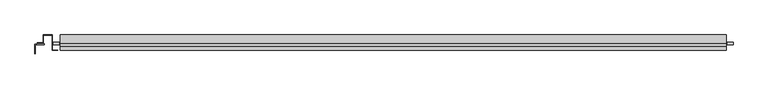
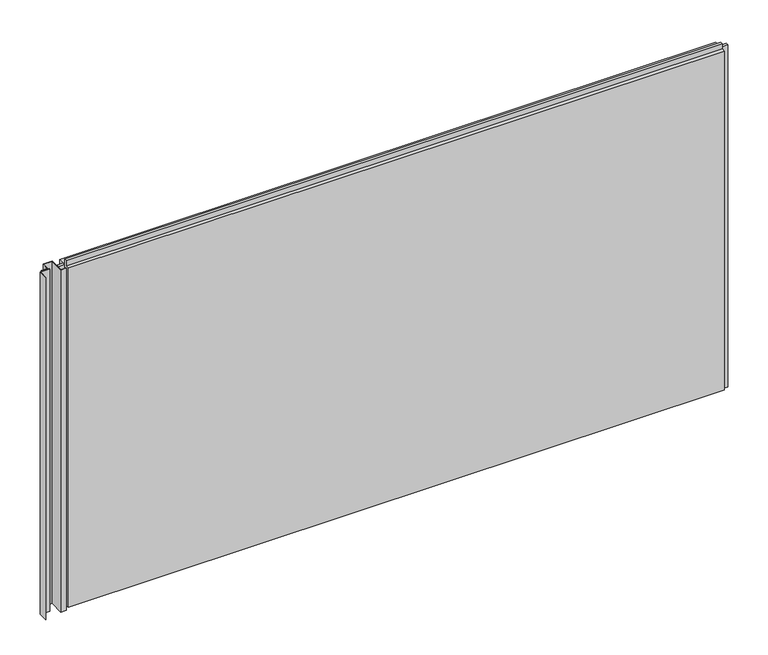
"""IFC4 building model written with IfcOpenShell, lengths in millimetres: plate geometry, Trimo_Qbiss Screen_Normal Panel-HORIZONTAL : HR - FB."""

from ifc_helpers import new_model, si_unit, frame, origin, place, context, project, spatial, polyline, outline, extrude, source, transform, mapped, element, save


def plate_1391ef68(model_context):
    return source(origin(), model_context, "Body", "SweptSolid", [
        extrude(outline(polyline([(-1059.5, 50.0), (-1059.5, 49.2), (-1077.8, 49.2), (-1077.8, 99.1967741), (-1106.2, 99.1967741), (-1106.2, 74.2), (-1126.2, 74.2), (-1126.2, 72.8), (-1112.0, 72.8), (-1112.0, 72.0), (-1127.0, 72.0), (-1127.0, 75.0), (-1107.0, 75.0), (-1107.0, 100.0), (-1077.0, 100.0), (-1077.0, 50.0), (-1059.5, 50.0)])), frame((0.0, 0.0, -1.0), z_axis=(0.0, 0.0, 1.0), x_axis=(1.0, 0.0, 0.0)), (0.0, 0.0, 1.0), 1200.0),
        extrude(outline(polyline([(-1103.0, 71.0), (-1103.0, 68.0), (-1133.2272593, 68.0), (-1133.2272593, 38.5929448), (-1134.0, 38.8), (-1134.0, 68.8), (-1103.8, 68.8), (-1103.8, 70.2), (-1127.0, 70.2), (-1127.0, 71.0), (-1103.0, 71.0)])), frame((0.0, 0.0, -1.0), z_axis=(0.0, 0.0, 1.0), x_axis=(1.0, 0.0, 0.0)), (0.0, 0.0, 1.0), 1200.0),
        extrude(outline(polyline([(-1055.0, 76.5978162), (-1055.0, 67.8978162), (-1074.0, 67.8978162), (-1074.0, 76.5978162), (-1055.0, 76.5978162)])), frame((0.0, 0.0, -1.0), z_axis=(0.0, 0.0, 1.0), x_axis=(1.0, 0.0, 0.0)), (0.0, 0.0, 1.0), 1200.0),
        extrude(outline(polyline([(1125.5, 67.8978162), (1125.5, 76.5978162), (1144.5, 76.5978162), (1144.5, 67.8978162), (1125.5, 67.8978162)])), frame((0.0, 0.0, -1.0), z_axis=(0.0, 0.0, 1.0), x_axis=(1.0, 0.0, 0.0)), (0.0, 0.0, 1.0), 1200.0),
        extrude(outline(polyline([(71.0, 1196.0), (100.0, 1196.0), (100.0, 0.0), (72.0, 0.0), (72.0, 15.5), (62.0, 15.5), (62.0, 7.0), (50.0, 7.0), (50.0, 1196.0), (63.0, 1196.0), (63.0, 1214.5), (71.0, 1214.5), (71.0, 1196.0)])), frame((-1052.0, 0.0, 0.0), z_axis=(1.0, 0.0, 0.0), x_axis=(0.0, 1.0, 0.0)), (0.0, 0.0, 1.0), 2174.5),
    ])


if __name__ == "__main__":
    model = new_model("IFC4")
    model_context = context("Model", 3, world=origin())
    ifc_project = project(units=[si_unit("LENGTHUNIT", "METRE", prefix="MILLI")], contexts=[model_context])
    site = spatial("IfcSite", under=ifc_project)
    building = spatial("IfcBuilding", under=site)
    placement = place(None, origin())
    plate_shape = plate_1391ef68(model_context)
    element("IfcPlate", 1, ObjectType="Trimo_Qbiss Screen_Normal Panel-HORIZONTAL : HR - FB", at=placement, inside=building, context=model_context, shape_type="MappedRepresentation", body=[
        mapped(plate_shape, transform((0.0, 0.0, 0.0), x_axis=(1.0, 0.0, 0.0), y_axis=(0.0, 1.0, 0.0), z_axis=(0.0, 0.0, 1.0))),
    ])
    save(model, "model.ifc")
